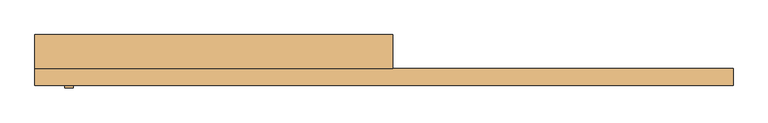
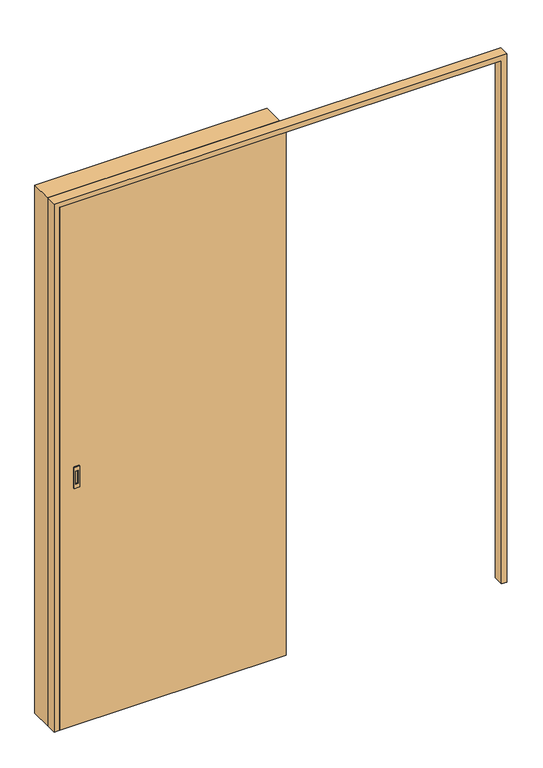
"""IFC4 building model written with IfcOpenShell, lengths in millimetres: door geometry, 木製_片引き_フラッシュ : WD-4 w800h2000."""

import ifcopenshell
import ifcopenshell.guid

model = None  # the IFC model being written
_history = None  # IfcOwnerHistory: only IFC2X3 demands one
_inside = {}  # id of a spatial element -> (the spatial element, [elements in it])
_under = {}  # id of a project, library or spatial element -> (it, [spatial elements below it])
_declared = {}  # id of a project -> (the project, [libraries it declares])
_typed = {}  # id of a type object -> (the type object, [elements of that type])
_made_of = {}  # id of a material, layer set ... -> (it, [elements and type objects made of it])


def new_model(schema):
    """Start an empty IFC model of exactly this schema.

    Asked for "IFC4X3", IfcOpenShell would pick the latest addendum, in which some entities
    have other attributes; the version numbers below select the first issue.
    IFC2X3 requires an IfcOwnerHistory on every rooted entity: one is made here for all.
    """
    global model, _history
    if schema == "IFC4X3":
        model = ifcopenshell.file(schema_version=(4, 3, 0, 0))
    else:
        model = ifcopenshell.file(schema=schema)
    _inside.clear()
    _under.clear()
    _declared.clear()
    _typed.clear()
    _made_of.clear()
    _history = None
    if model.schema == "IFC2X3":
        org = make("IfcOrganization", Name="unknown")
        user = make(
            "IfcPersonAndOrganization",
            ThePerson=make("IfcPerson", FamilyName="unknown"),
            TheOrganization=org,
        )
        app = make(
            "IfcApplication",
            ApplicationDeveloper=org,
            Version="unknown",
            ApplicationFullName="unknown",
            ApplicationIdentifier="unknown",
        )
        _history = make(
            "IfcOwnerHistory",
            OwningUser=user,
            OwningApplication=app,
            ChangeAction="ADDED",
            CreationDate=0,
        )
    return model


def make(cls, **values):
    """One entity of the class cls with the attributes given. An attribute that is None is left unset."""
    return model.create_entity(
        cls, **{name: value for name, value in values.items() if value is not None}
    )


def rooted(cls, **values):
    """An entity with a GlobalId (a new one), such as an element, a storey or a relation."""
    return make(cls, GlobalId=ifcopenshell.guid.new(), OwnerHistory=_history, **values)


def si_unit(unit_type, name, prefix=None):
    """IfcSIUnit, for example si_unit("LENGTHUNIT", "METRE", prefix="MILLI")."""
    return make("IfcSIUnit", UnitType=unit_type, Prefix=prefix, Name=name)


def assignment(units):
    """IfcUnitAssignment: the units of a project."""
    return None if units is None else make("IfcUnitAssignment", Units=units)


def point(xyz):
    """IfcCartesianPoint."""
    return None if xyz is None else make("IfcCartesianPoint", Coordinates=xyz)


def direction(xyz):
    """IfcDirection."""
    return None if xyz is None else make("IfcDirection", DirectionRatios=xyz)


def frame(location, z_axis=None, x_axis=None):
    """IfcAxis2Placement3D, a coordinate frame: its origin and axes. An axis left out is left unset."""
    return make(
        "IfcAxis2Placement3D",
        Location=point(location),
        Axis=direction(z_axis),
        RefDirection=direction(x_axis),
    )


def origin():
    """The frame at (0, 0, 0) with its axes left unset."""
    return frame((0.0, 0.0, 0.0))


def origin_with_axes():
    """The frame at (0, 0, 0) with the z axis (0, 0, 1) and the x axis (1, 0, 0) written out."""
    return frame((0.0, 0.0, 0.0), z_axis=(0.0, 0.0, 1.0), x_axis=(1.0, 0.0, 0.0))


def place(relative_to, where):
    """IfcLocalPlacement: puts the frame where relative to a parent placement (None: the world)."""
    return make(
        "IfcLocalPlacement", PlacementRelTo=relative_to, RelativePlacement=where
    )


def context(
    kind, dimensions, precision=None, world=None, true_north=None, identifier=None
):
    """IfcGeometricRepresentationContext, for example the 3D "Model" context."""
    return make(
        "IfcGeometricRepresentationContext",
        ContextIdentifier=identifier,
        ContextType=kind,
        CoordinateSpaceDimension=dimensions,
        Precision=precision,
        WorldCoordinateSystem=world,
        TrueNorth=true_north,
    )


def project(units=None, contexts=None):
    """IfcProject with its units and contexts."""
    return rooted(
        "IfcProject",
        Name="project",
        RepresentationContexts=contexts,
        UnitsInContext=assignment(units),
    )


def spatial(cls, under=None, at=None, **own):
    """A site, building, storey or space (cls), placed at a placement, below another one or the project."""
    s = rooted(cls, ObjectPlacement=at, **own)
    if under is not None:
        _under.setdefault(under.id(), (under, []))[1].append(s)
    return s


def polyline(points):
    """IfcPolyline through the points."""
    return make("IfcPolyline", Points=[point(p) for p in points])


def outline(outer, holes=None, kind="AREA"):
    """IfcArbitraryClosedProfileDef: a profile drawn as a closed curve; with holes, ...WithVoids."""
    if holes is None:
        return make("IfcArbitraryClosedProfileDef", ProfileType=kind, OuterCurve=outer)
    return make(
        "IfcArbitraryProfileDefWithVoids",
        ProfileType=kind,
        OuterCurve=outer,
        InnerCurves=holes,
    )


def extrude(swept, where, along, depth):
    """IfcExtrudedAreaSolid: the profile swept, set in the frame where, extruded along a direction by depth."""
    return make(
        "IfcExtrudedAreaSolid",
        SweptArea=swept,
        Position=where,
        ExtrudedDirection=direction(along),
        Depth=depth,
    )


def faces_of(points, faces, orient=None, outer=None):
    """IfcFace entities. A face is a list of loops; a loop is a list of indices into points, from 0.

    orient and outer hold one flag for each loop. By default every Orientation is true, the
    first loop of a face is its IfcFaceOuterBound and the others are IfcFaceBound.
    """
    made = []
    for i, loops in enumerate(faces):
        bounds = []
        for j, loop in enumerate(loops):
            is_outer = j == 0 if outer is None else outer[i][j]
            bounds.append(
                make(
                    "IfcFaceOuterBound" if is_outer else "IfcFaceBound",
                    Bound=make("IfcPolyLoop", Polygon=[points[k] for k in loop]),
                    Orientation=True if orient is None else orient[i][j],
                )
            )
        made.append(make("IfcFace", Bounds=bounds))
    return made


def faceted_brep(points, faces, orient=None, outer=None, voids=None):
    """IfcFacetedBrep: a solid bounded by flat faces; with voids (closed shells), ...WithVoids."""
    shared = [point(p) for p in points]
    hull = make("IfcClosedShell", CfsFaces=faces_of(shared, faces, orient, outer))
    if voids is None:
        return make("IfcFacetedBrep", Outer=hull)
    return make(
        "IfcFacetedBrepWithVoids",
        Outer=hull,
        Voids=[
            make(cls, CfsFaces=faces_of(shared, fs, o, b)) for cls, fs, o, b in voids
        ],
    )


def shape(context_of_items, identifier, shape_type, items):
    """IfcShapeRepresentation: the items that make up one representation, for example the "Body"."""
    return make(
        "IfcShapeRepresentation",
        ContextOfItems=context_of_items,
        RepresentationIdentifier=identifier,
        RepresentationType=shape_type,
        Items=items,
    )


def source(mapping_origin, context_of_items, identifier, shape_type, items):
    """IfcRepresentationMap: a shape defined once, which mapped items show again and again."""
    return make(
        "IfcRepresentationMap",
        MappingOrigin=mapping_origin,
        MappedRepresentation=shape(context_of_items, identifier, shape_type, items),
    )


def transform(
    local_origin,
    x_axis=None,
    y_axis=None,
    z_axis=None,
    scale=None,
    scale2=None,
    scale3=None,
    uniform=True,
):
    """IfcCartesianTransformationOperator3D, or its non-uniform kind. x_axis, y_axis, z_axis: its Axis1, 2, 3."""
    if uniform:
        return make(
            "IfcCartesianTransformationOperator3D",
            Axis1=direction(x_axis),
            Axis2=direction(y_axis),
            LocalOrigin=point(local_origin),
            Scale=scale,
            Axis3=direction(z_axis),
        )
    return make(
        "IfcCartesianTransformationOperator3DnonUniform",
        Axis1=direction(x_axis),
        Axis2=direction(y_axis),
        LocalOrigin=point(local_origin),
        Scale=scale,
        Axis3=direction(z_axis),
        Scale2=scale2,
        Scale3=scale3,
    )


def mapped(mapping_source, mapping_target):
    """IfcMappedItem: shows the shape of a source again, moved by a transform."""
    return make(
        "IfcMappedItem", MappingSource=mapping_source, MappingTarget=mapping_target
    )


def made_of(thing, what):
    """Note that an element or type object is made of a material, layer set ...; save() writes the relation."""
    if what is not None:
        _made_of.setdefault(what.id(), (what, []))[1].append(thing)
    return thing


def element(
    cls,
    number,
    at=None,
    inside=None,
    cuts=None,
    type_object=None,
    material=None,
    context=None,
    identifier="Body",
    shape_type=None,
    held_by="IfcProductDefinitionShape",
    body=None,
    shapes=None,
    **own,
):
    """One element of the class cls, such as IfcWall. Its Tag is "e" and its number.

    at: its placement. inside: the storey or other place that contains it. cuts: it is an
    opening in that element (IfcRelVoidsElement). A single representation is given by context,
    identifier, shape_type and body (its items); several are given by shapes. held_by: the class
    of the entity that holds the representations. save() writes the other relations.
    """
    e = rooted(cls, Tag="e%d" % number, ObjectPlacement=at, **own)
    if body is not None:
        shapes = [shape(context, identifier, shape_type, body)]
    if shapes is not None:
        e.Representation = make(held_by, Representations=shapes)
    if inside is not None:
        _inside.setdefault(inside.id(), (inside, []))[1].append(e)
    if cuts is not None:
        rooted(
            "IfcRelVoidsElement", RelatingBuildingElement=cuts, RelatedOpeningElement=e
        )
    if type_object is not None:
        _typed.setdefault(type_object.id(), (type_object, []))[1].append(e)
    return made_of(e, material)


def aggregate(whole, parts):
    """IfcRelAggregates: a whole, such as a stair, and the parts it consists of."""
    return rooted("IfcRelAggregates", RelatingObject=whole, RelatedObjects=parts)


def save(model, path):
    """Write the relations noted so far, then the file.

    IfcRelAggregates (storeys below a building ...), IfcRelContainedInSpatialStructure (elements
    in a storey), IfcRelDefinesByType, IfcRelAssociatesMaterial and IfcRelDeclares: one each for
    every whole, place, type object, material and project.
    """
    for whole, parts in _under.values():
        aggregate(whole, parts)
    for where, things in _inside.values():
        rooted(
            "IfcRelContainedInSpatialStructure",
            RelatedElements=things,
            RelatingStructure=where,
        )
    for kind, things in _typed.values():
        rooted("IfcRelDefinesByType", RelatedObjects=things, RelatingType=kind)
    for what, things in _made_of.values():
        rooted("IfcRelAssociatesMaterial", RelatedObjects=things, RelatingMaterial=what)
    for by, libraries in _declared.values():
        rooted("IfcRelDeclares", RelatingContext=by, RelatedDefinitions=libraries)
    model.write(path)


def door_12b42705(model_context):
    return source(origin(), model_context, "Body", "SolidModel", [
        faceted_brep([(-335.535504, -25.0, 910.0), (-355.535504, -25.0, 910.0), (-355.535504, -25.0, 990.0), (-335.535504, -25.0, 990.0), (-350.535504, -25.0, 975.0), (-350.535504, -25.0, 925.0), (-340.535504, -25.0, 925.0), (-340.535504, -25.0, 975.0), (-335.535504, -65.0, 910.0), (-335.535504, -65.0, 990.0), (-355.535504, -65.0, 990.0), (-355.535504, -65.0, 910.0), (-350.535504, -65.0, 925.0), (-350.535504, -65.0, 975.0), (-340.535504, -65.0, 975.0), (-340.535504, -65.0, 925.0), (-350.535504, -30.0, 975.0), (-340.535504, -30.0, 975.0), (-340.535504, -30.0, 925.0), (-350.535504, -30.0, 925.0), (-340.535504, -60.0, 925.0), (-340.535504, -60.0, 975.0), (-350.535504, -60.0, 975.0), (-350.535504, -60.0, 925.0)], [[[0, 1, 2, 3], [4, 5, 6, 7]], [[8, 9, 10, 11], [12, 13, 14, 15]], [[3, 9, 8, 0]], [[2, 10, 9, 3]], [[1, 11, 10, 2]], [[0, 8, 11, 1]], [[16, 17, 18, 19]], [[16, 4, 7, 17]], [[17, 7, 6, 18]], [[18, 6, 5, 19]], [[19, 5, 4, 16]], [[20, 21, 22, 23]], [[23, 12, 15, 20]], [[22, 13, 12, 23]], [[21, 14, 13, 22]], [[20, 15, 14, 21]]]),
        extrude(outline(polyline([(2020.0, 414.464496), (2020.0, -425.535504), (0.0, -425.535504), (0.0, -405.535504), (2000.0, -405.535504), (2000.0, 394.464496), (0.0, 394.464496), (0.0, 414.464496), (2020.0, 414.464496)])), frame((0.0, -20.0, 0.0), z_axis=(0.0, 1.0, 0.0), x_axis=(0.0, 0.0, 1.0)), (0.0, 0.0, 1.0), 80.0),
        extrude(outline(polyline([(2020.0, 1214.464496), (2020.0, -425.535504), (0.0, -425.535504), (0.0, -405.535504), (2000.0, -405.535504), (2000.0, 1194.464496), (0.0, 1194.464496), (0.0, 1214.464496), (2020.0, 1214.464496)])), frame((0.0, -60.0, 0.0), z_axis=(0.0, 1.0, 0.0), x_axis=(0.0, 0.0, 1.0)), (0.0, 0.0, 1.0), 40.0),
        extrude(outline(polyline([(414.464496, -30.0), (414.464496, -60.0), (-405.535504, -60.0), (-405.535504, -30.0), (414.464496, -30.0)])), origin_with_axes(), (0.0, 0.0, 1.0), 2000.0),
    ])


if __name__ == "__main__":
    model = new_model("IFC4")
    model_context = context("Model", 3, world=origin())
    ifc_project = project(units=[si_unit("LENGTHUNIT", "METRE", prefix="MILLI")], contexts=[model_context])
    site = spatial("IfcSite", under=ifc_project)
    building = spatial("IfcBuilding", under=site)
    placement = place(None, origin())
    door_shape = door_12b42705(model_context)
    element("IfcDoor", 1, ObjectType="木製_片引き_フラッシュ : WD-4 w800h2000", at=placement, inside=building, context=model_context, shape_type="MappedRepresentation", body=[
        mapped(door_shape, transform((0.0, 0.0, 0.0), x_axis=(1.0, 0.0, 0.0), y_axis=(0.0, 1.0, 0.0), z_axis=(0.0, 0.0, 1.0))),
    ])
    save(model, "model.ifc")
